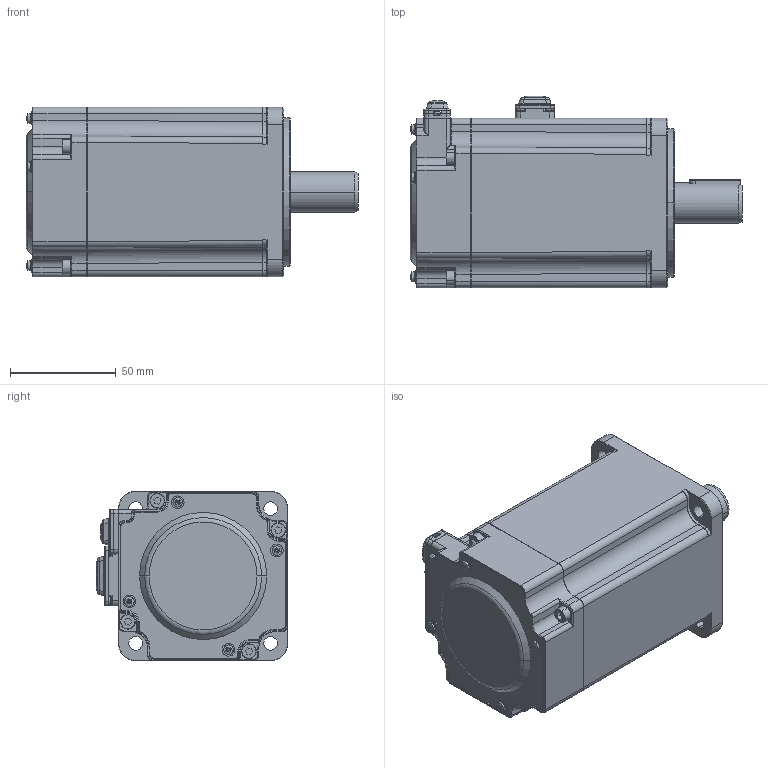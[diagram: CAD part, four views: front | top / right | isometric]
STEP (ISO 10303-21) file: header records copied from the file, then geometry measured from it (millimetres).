
FILE_DESCRIPTION (( 'STEP AP214' ), '1' );
FILE_NAME ('80价陬軞蚾-眻脣.STEP', '2021-12-26T13:23:40', ( '' ), ( '' ), 'SwSTEP 2.0', 'SolidWorks 2021', '' );
FILE_SCHEMA (( 'AUTOMOTIVE_DESIGN' ));
Length unit declared in the file: millimetre
Products named in the file (1): 80价陬軞蚾-眻脣
Bounding box: 156.7 x 90.5 x 80 mm (x, y, z)
Surface area: 59119 mm2 (no closed solid volume)
Topology: 0 solids, 39 shells, 811 faces, 2392 edges, 1554 vertices
Faces by surface type: plane 314, cylinder 282, cone 86, torus 65, bspline 54, sphere 10
Entity records: 40263 total; most frequent: CARTESIAN_POINT 10243, DIRECTION 4590, ORIENTED_EDGE 4015, EDGE_CURVE 2382, AXIS2_PLACEMENT_3D 1771, VERTEX_POINT 1552, LINE 1048, VECTOR 1048
